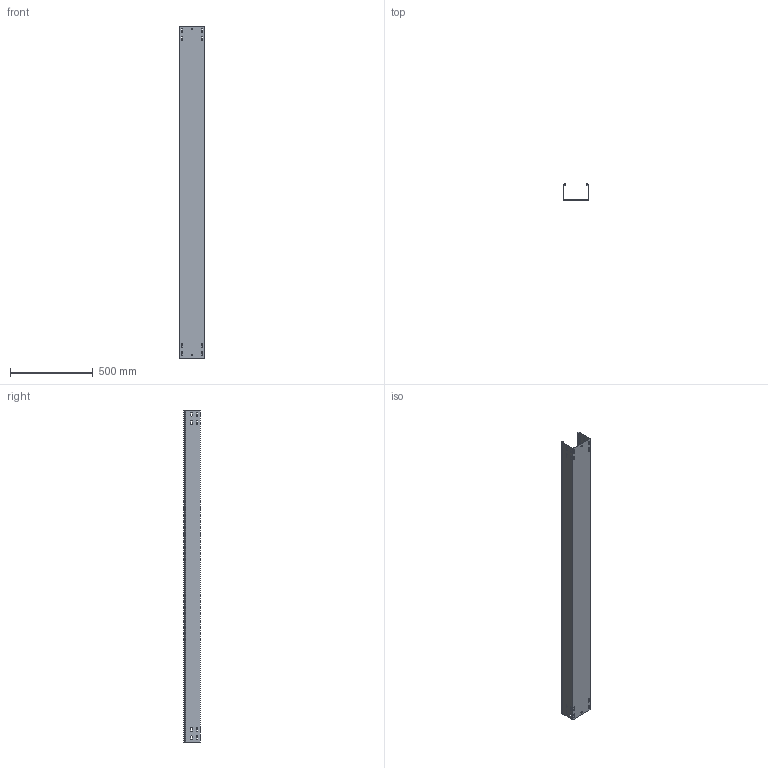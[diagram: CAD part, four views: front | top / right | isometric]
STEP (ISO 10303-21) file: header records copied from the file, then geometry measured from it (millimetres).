
FILE_DESCRIPTION (( 'STEP AP203' ), '1' );
FILE_NAME ('CLN10-100-150-200-2 Ëîòîê íåïåðôîðèðîâàííûé ESCA 100õ150õ2000-2,0 IEK.STEP', '2021-10-03T11:55:32', ( '' ), ( '' ), 'SwSTEP 2.0', 'SolidWorks 2017', '' );
FILE_SCHEMA (( 'CONFIG_CONTROL_DESIGN' ));
Length unit declared in the file: millimetre
Products named in the file (1): CLN10-100-150-200-2 Ëîòîê íåïåðôîðèðîâàííûé ESCA 100õ150õ2000-2,0 IEK
Bounding box: 150 x 99.97 x 2000 mm (x, y, z)
Volume: 1566131.5 mm3; surface area: 1436435.1 mm2
Topology: 1 solids, 1 shells, 172 faces, 510 edges, 340 vertices
Faces by surface type: plane 92, cylinder 80
Entity records: 5975 total; most frequent: CARTESIAN_POINT 1023, ORIENTED_EDGE 1020, DIRECTION 1016, EDGE_CURVE 510, LINE 350, VECTOR 350, VERTEX_POINT 340, AXIS2_PLACEMENT_3D 333
